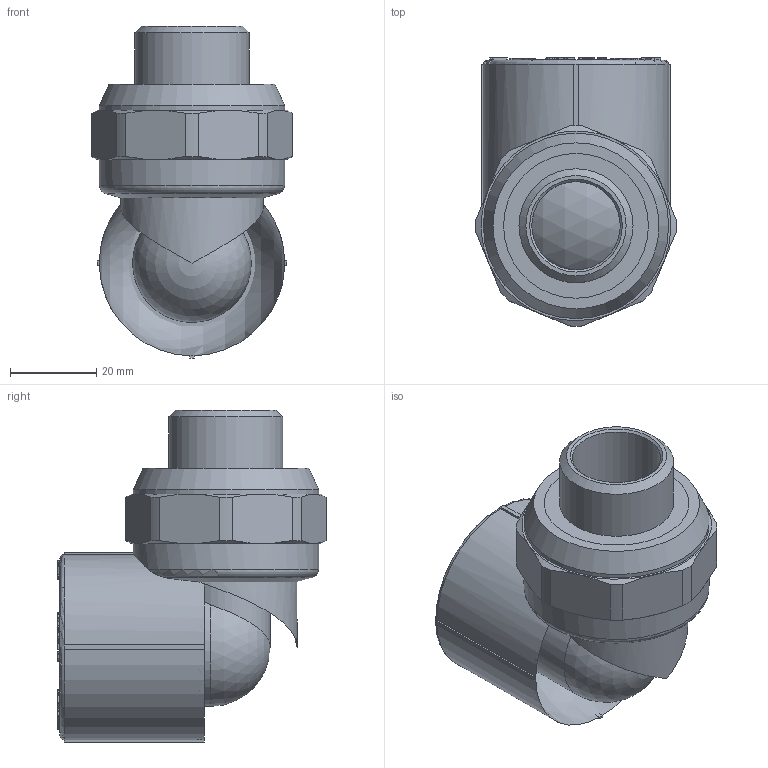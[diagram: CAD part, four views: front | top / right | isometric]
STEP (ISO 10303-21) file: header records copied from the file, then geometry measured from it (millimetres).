
FILE_DESCRIPTION(('STEP AP203'), '1');
FILE_NAME('ÂÐ.752212.040 - VTp.753.0.03205', '', ('UNSPECIFIED'), ('UNSPECIFIED'), 'C3D Converter', 'C3D Toolkit', '');
FILE_SCHEMA(('CONFIG_CONTROL_DESIGN'));
Length unit declared in the file: millimetre
Products named in the file (4): ВР.752212.040; ВР.302639.012.000; ВР.713751.002
Assembly tree (3 placements, depth 3):
  ВР.752212.040
    ВР.302639.012.000
      ВР.713751.002
      (unnamed)
Bounding box: 46.49 x 62.24 x 77 mm (x, y, z)
Volume: 28185.3 mm3; surface area: 31341.8 mm2
Topology: 3 solids, 3 shells, 694 faces, 1907 edges, 1263 vertices
Faces by surface type: extrusion 330, plane 305, cylinder 37, cone 12, torus 8, sphere 2
Full cylindrical faces by diameter (mm): 20.5 x2, 23 x2, 26.441 x1, 26.6 x2, 27.5 x1, 29.6 x6, 33.6 x8, 43 x2
Entity records: 23464 total; most frequent: CARTESIAN_POINT 6991, ORIENTED_EDGE 3718, DIRECTION 2388, EDGE_CURVE 1859, VECTOR 1344, VERTEX_POINT 1255, B_SPLINE_CURVE_WITH_KNOTS 1023, LINE 1014
